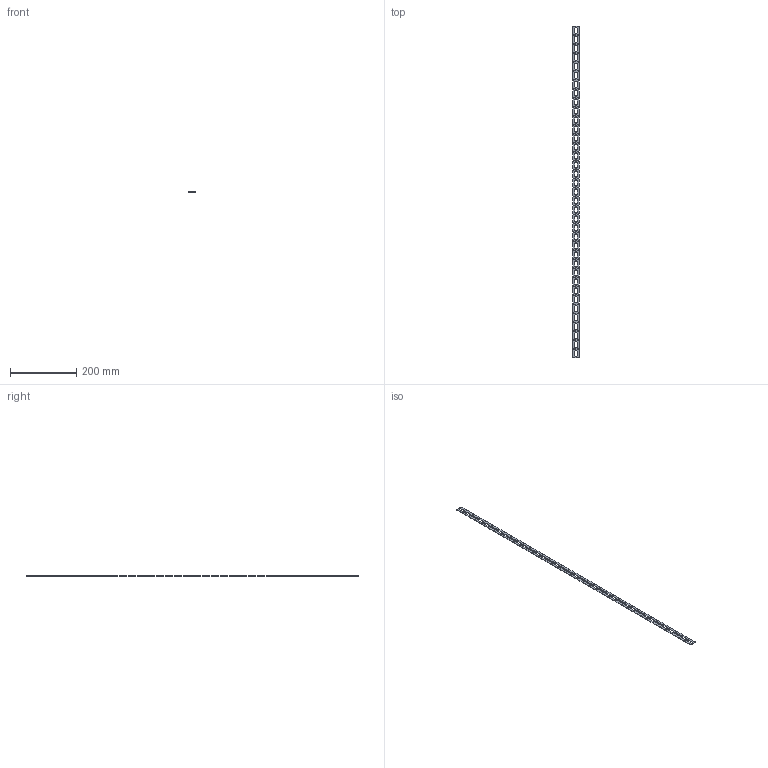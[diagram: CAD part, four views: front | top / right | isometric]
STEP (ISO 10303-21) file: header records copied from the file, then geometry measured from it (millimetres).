
FILE_DESCRIPTION(/* description */ (''),/* implementation_level */ '2;1');
FILE_NAME(/* name */ 'TPM100~1',/* time_stamp */ '2024-01-28T21:21:06+01:00',/* author */ (''),/* organization */ (''),/* preprocessor_version */ 'ST-DEVELOPER v16.5',/* originating_system */ '',/* authorisation */ '');
FILE_SCHEMA (('CONFIG_CONTROL_DESIGN'));
Length unit declared in the file: millimetre
Products named in the file (1): Document
Bounding box: 20 x 999 x 1.25 mm (x, y, z)
Volume: 18639.5 mm3; surface area: 35258.9 mm2
Topology: 1 solids, 1 shells, 746 faces, 2232 edges, 1488 vertices
Faces by surface type: cylinder 374, plane 372
Entity records: 23379 total; most frequent: CARTESIAN_POINT 9804, ORIENTED_EDGE 4464, EDGE_CURVE 2232, VERTEX_POINT 1488, EDGE_LOOP 820, DIRECTION 750, AXIS2_PLACEMENT_3D 748, ADVANCED_FACE 746
